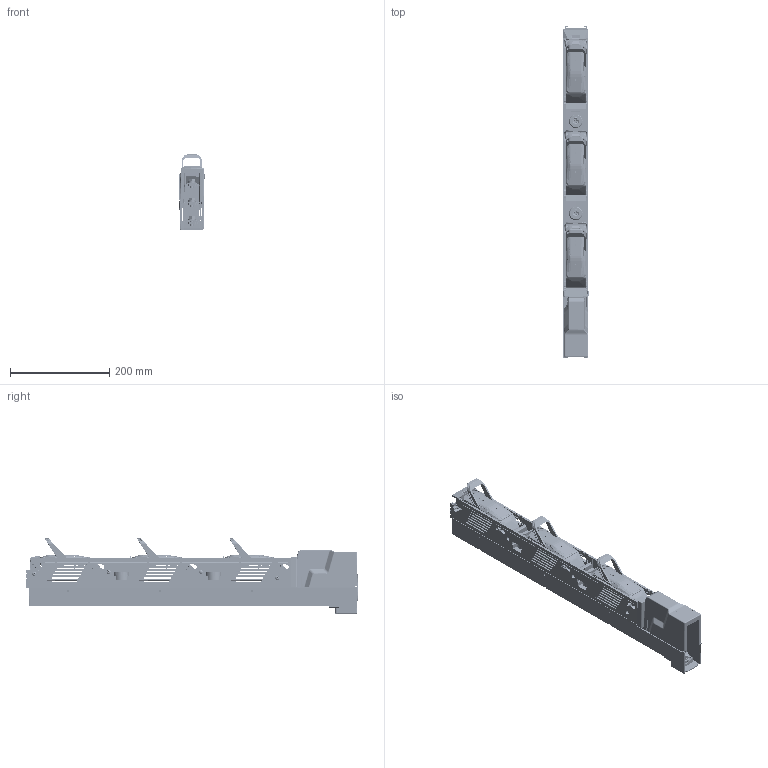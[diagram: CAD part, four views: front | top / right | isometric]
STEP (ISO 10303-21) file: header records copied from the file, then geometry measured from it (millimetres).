
FILE_DESCRIPTION (( 'STEP AP214' ), '1' );
FILE_NAME ('160S.STEP', '2025-12-30T10:04:53', ( '' ), ( '' ), 'SwSTEP 2.0', 'SolidWorks 2024', '' );
FILE_SCHEMA (( 'AUTOMOTIVE_DESIGN' ));
Length unit declared in the file: millimetre
Products named in the file (27): MIEHUSHANPIAN.stp; ZUOCEBIAN.stp; SSHOUBINZUHE_ASM.stp; GB_T819_1-M4X12.stp; CHANGCHUTOU.stp; GB_T6170-M8.stp; DIZUO.stp; CHANGLIANJIEPIAN.stp; GB_T9074_17_M8X16.stp; TOUMINGJIANZUHE_ASM.stp; DINGWEIJIAN.stp; SHIZISUO.stp; XIAOLIANJIANPIAN.stp; MIEHUZHAOZUJIAN_ASM.stp; 7_100.stp; MIEHUZHAO.stp; 4_100.stp; ZHONGLIANJIEPIAN.stp; WEIDONGKAIGUAN.stp; GB_T845-ST4_2X19-C.stp; 160S.stp; CHANGCHUTOUYAOXINGKONG.stp; YOUCEBIAN.stp; 160S; WEIZUO.stp; 160-S-SHOUBING-20240401_2.stp; DUANCHUTOU.stp
Assembly tree (55 placements, depth 5):
  160S
    160S.stp
      MIEHUZHAOZUJIAN_ASM.stp  x3
        MIEHUZHAO.stp
        MIEHUSHANPIAN.stp
      SSHOUBINZUHE_ASM.stp  x3
        TOUMINGJIANZUHE_ASM.stp
          4_100.stp
          7_100.stp
        160-S-SHOUBING-20240401_2.stp
      ZUOCEBIAN.stp
      YOUCEBIAN.stp
      DIZUO.stp
      DINGWEIJIAN.stp  x3
      CHANGLIANJIEPIAN.stp
      ZHONGLIANJIEPIAN.stp
      XIAOLIANJIANPIAN.stp
      DUANCHUTOU.stp  x3
      SHIZISUO.stp  x2
      WEIZUO.stp
      CHANGCHUTOUYAOXINGKONG.stp  x2
      CHANGCHUTOU.stp
      GB_T6170-M8.stp  x3
      GB_T819_1-M4X12.stp  x7
      GB_T9074_17_M8X16.stp  x6
      GB_T845-ST4_2X19-C.stp  x4
      WEIDONGKAIGUAN.stp  x2
Bounding box: 50.9 x 669.52 x 151.29 mm (x, y, z)
Volume: 881093.8 mm3; surface area: 823387.9 mm2
Topology: 67 solids, 67 shells, 10737 faces, 29866 edges, 19174 vertices
Faces by surface type: plane 6217, cylinder 2635, bspline 970, cone 652, torus 230, sphere 33
Entity records: 274311 total; most frequent: CARTESIAN_POINT 97926, ORIENTED_EDGE 40458, DIRECTION 30802, EDGE_CURVE 20229, VERTEX_POINT 13087, LINE 12232, VECTOR 12232, AXIS2_PLACEMENT_3D 9285
